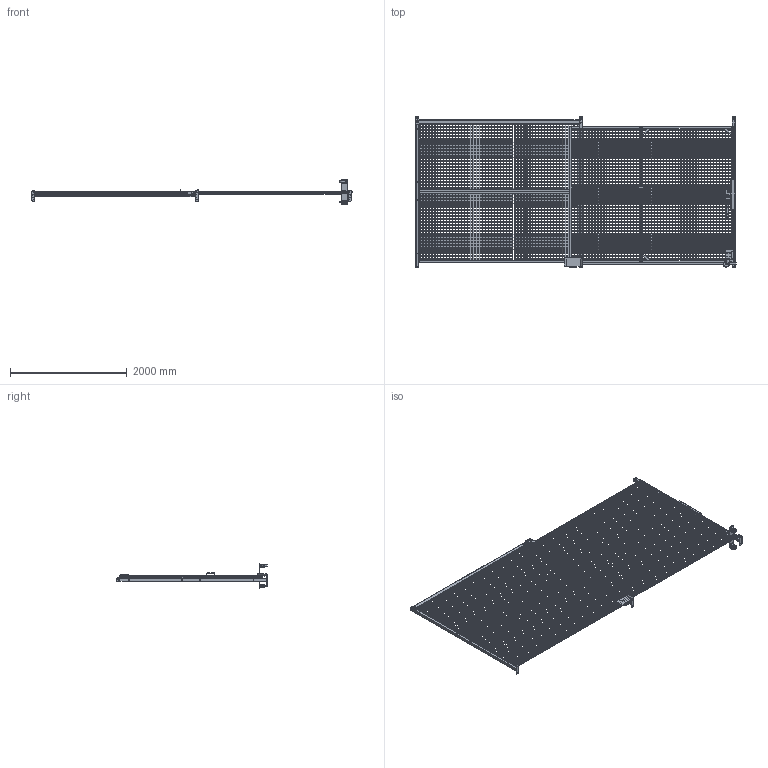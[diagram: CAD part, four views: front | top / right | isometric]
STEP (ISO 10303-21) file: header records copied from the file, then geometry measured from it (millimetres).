
FILE_DESCRIPTION (( 'STEP AP214' ), '1' );
FILE_NAME ('TD888LHO.STEP', '2021-04-01T13:13:15', ( '' ), ( '' ), 'SwSTEP 2.0', 'SolidWorks 2021', '' );
FILE_SCHEMA (( 'AUTOMOTIVE_DESIGN' ));
Length unit declared in the file: inch
Products named in the file (56): SF-1 LATCH; TD888LHO; POST CAP; COMMON STRU ANGLE 11418_PXSD8PL; COMMON WIRE_10GA X 61; COMMON WIRE_10GA X 47; COMMON MESH_SDL4; Part11.stp; SDLKCOV; COMMON 840 SLIDE DOOR_SDL4; SGDG12; SDREC; COMMON MESH_MHSD5; COMMON 840 PANEL FRAME_94; TDCASTER.stp; SDRECA; COMMON FLAT BAR_PXSDFV; COMMON MESH_MH94; COMMON 840 SLIDE DOOR SUB_TD98LH; Part9.stp; FS12412TMS; SDTT4WH_NO BOLT; COMMON BASE PLATE_BP27; COMMON STRU ANGLE 11418_PX4PC; SDTT4WH_CUT BOLT; SUD12HNDLBPU; COMMON STRU ANGLE 11418_PXSD8PX; COMMON STRU ANGLE 11418_PXSD5PC; COMMON TD CAP_TDCAP9; SUD12HANDLE; COMMON STRU ANGLE 11418_PX9; COMMON 840 POST WELD_DP8P; SDTDPBLTON; TDZBKT; TDCASTER; HDLKPLATEF; SDLKRECT; COMMON 840 POST_DP8P; SDRECB; COMMON 840 SLIDE DOOR_SD5-LH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
Assembly tree (409 placements, depth 5):
  TD888LHO
    COMMON 840 POST WELD_DP8P  x3
      COMMON BASE PLATE_BP27
      COMMON 840 POST_DP8P
      POST CAP
    COMMON 840 SD TRK ASSEMBLY_TDTRK9 RHO
      COMMON SD TRK_TDTRK9
      SDTCBKT  x2
    COMMON 840 SLIDE DOOR SUB_TD98LH
      COMMON 840 SLIDE DOOR_SD5-LH
        COMMON STRU ANGLE 11418_PXSD5PC  x2
        COMMON STRU ANGLE 11418_PXSD8PX
        COMMON STRU ANGLE 11418_PXSD8PL
        HDLKPLATEF
        HDLKPLATEB
        COMMON FLAT BAR_PXSD5FH  x2
        COMMON FLAT BAR_PXSDFV  x2
        SDLKCOV
        COMMON MESH_MHSD5
          COMMON WIRE_10GA X 61  x91
          COMMON WIRE_10GA X 90.5  x31
        SF-1 LATCH
          SF-1 LATCH
          SB-1
        SDCGUS  x4
      COMMON 840 SLIDE DOOR_SDL4
        COMMON STRU ANGLE 11418_PXL4PC  x2
        COMMON STRU ANGLE 11418_PXSD8PX  x2
        COMMON MESH_SDL4
          COMMON WIRE_10GA X 47  x91
          COMMON WIRE_10GA X 90.5  x24
        COMMON FLAT BAR_PX4F
    SDTT4WH_CUT BOLT
      SDTT4WH_NO BOLT
      FS12412TMS
    SGDG12
    SDREC
      SDRECB
      SDLKRECT
      SDRECA
    COMMON SD COVER BAR_SDCB9
    SDTDPBLTON
    SDTDCP  x2
    SUD12HNDLWELD
      SUD12HANDLE
      SUD12HNDLBPU
    SUD12HNDLBPU
    TDZBKT
    TDCASTER  x2
      TDCASTER.stp
        Part9.stp
        Part11.stp
        Part13.stp
    COMMON 840 PANEL FRAME_94  x2
      COMMON STRU ANGLE 11418_PX9
      COMMON STRU ANGLE 11418_PX4PC
      COMMON FLAT BAR_PX4F
      COMMON MESH_MH94
        COMMON WIRE_10GA X 107  x47
        COMMON WIRE_10GA X 47  x54
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Bounding box: 5476.49 x 2575.56 x 420.12 mm (x, y, z)
Volume: 21393708.4 mm3; surface area: 18389170.1 mm2
Topology: 514 solids, 519 shells, 4086 faces, 8385 edges, 5408 vertices
Faces by surface type: plane 2368, cylinder 1284, cone 193, bspline 193, torus 44, sphere 4
Full cylindrical faces by diameter (mm): 3.429 x439, 5.182 x4, 6.35 x8, 9.525 x86, 11.112 x10, 11.113 x8, 12.7 x69, 14.021 x1, 14.046 x1, 14.287 x18, 19.05 x1, 34.049 x1, 35.687 x1, 38.862 x1, 44.704 x1, 45.822 x1, 47.625 x4, 50.8 x4, 53.975 x4, 57.15 x6, 60.325 x2, 101.6 x2
Entity records: 84775 total; most frequent: CARTESIAN_POINT 34024, DIRECTION 9529, ORIENTED_EDGE 9138, EDGE_CURVE 4581, AXIS2_PLACEMENT_3D 3333, VERTEX_POINT 3088, VECTOR 2863, LINE 2863
